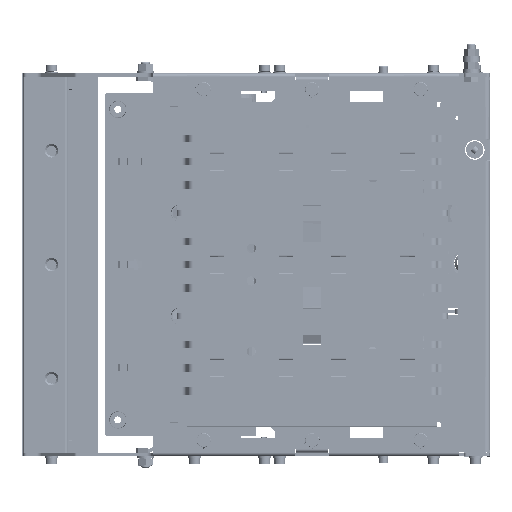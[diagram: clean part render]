
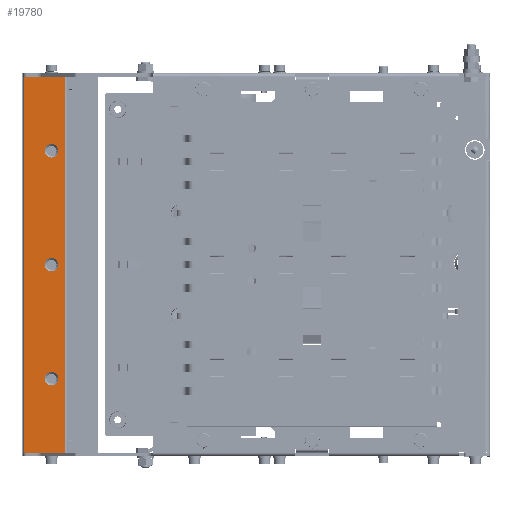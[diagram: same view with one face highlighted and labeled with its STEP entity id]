
A CAD part, left-side view. The second image highlights one B-rep face of the part: STEP entity #19780.
In plain terms, the highlighted planar face has unit normal (-1, 0, 0).
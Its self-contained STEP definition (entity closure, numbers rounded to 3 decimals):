
#1541 = ORIENTED_EDGE ( 'NONE', *, *, #16719, .T. ) ;
#2898 = DIRECTION ( 'NONE',  ( 1., 0., 0. ) ) ;
#3358 = AXIS2_PLACEMENT_3D ( 'NONE', #140465, #6004, #73793 ) ;
#4166 = AXIS2_PLACEMENT_3D ( 'NONE', #163078, #2898, #83635 ) ;
#6004 = DIRECTION ( 'NONE',  ( 1., 0., 0. ) ) ;
#6260 = AXIS2_PLACEMENT_3D ( 'NONE', #125598, #124439, #71186 ) ;
#6867 = FACE_BOUND ( 'NONE', #60080, .T. ) ;
#6872 = LINE ( 'NONE', #141197, #50761 ) ;
#7115 = DIRECTION ( 'NONE',  ( 0., 0., -1. ) ) ;
#9497 = DIRECTION ( 'NONE',  ( 1., 0., 0. ) ) ;
#9722 = ORIENTED_EDGE ( 'NONE', *, *, #91679, .F. ) ;
#14204 = LINE ( 'NONE', #154221, #20425 ) ;
#15259 = FACE_BOUND ( 'NONE', #83555, .T. ) ;
#16719 = EDGE_CURVE ( 'NONE', #86114, #59194, #141039, .T. ) ;
#16977 = VERTEX_POINT ( 'NONE', #172877 ) ;
#18543 = EDGE_CURVE ( 'NONE', #105776, #165842, #32640, .T. ) ;
#19780 = ADVANCED_FACE ( 'NONE', ( #126223, #42400, #15259, #6867 ), #70008, .F. ) ;
#20425 = VECTOR ( 'NONE', #165281, 1000. ) ;
#22490 = CARTESIAN_POINT ( 'NONE',  ( 294.756, 616.613, 174.188 ) ) ;
#23768 = AXIS2_PLACEMENT_3D ( 'NONE', #62147, #9497, #62717 ) ;
#24947 = ORIENTED_EDGE ( 'NONE', *, *, #102438, .T. ) ;
#28332 = EDGE_CURVE ( 'NONE', #62651, #105776, #14204, .T. ) ;
#28477 = CARTESIAN_POINT ( 'NONE',  ( 294.756, 591.613, 112.138 ) ) ;
#32640 = LINE ( 'NONE', #106769, #80793 ) ;
#34902 = CARTESIAN_POINT ( 'NONE',  ( 294.756, 591.613, -5.362 ) ) ;
#37275 = ORIENTED_EDGE ( 'NONE', *, *, #88600, .T. ) ;
#38729 = ORIENTED_EDGE ( 'NONE', *, *, #18543, .T. ) ;
#39022 = EDGE_CURVE ( 'NONE', #155412, #142852, #121262, .T. ) ;
#39981 = DIRECTION ( 'NONE',  ( 0., 0., 1. ) ) ;
#40313 = VERTEX_POINT ( 'NONE', #22490 ) ;
#42400 = FACE_BOUND ( 'NONE', #52055, .T. ) ;
#45305 = ORIENTED_EDGE ( 'NONE', *, *, #135195, .T. ) ;
#49553 = CARTESIAN_POINT ( 'NONE',  ( 294.756, 591.613, -110.362 ) ) ;
#50761 = VECTOR ( 'NONE', #155829, 1000. ) ;
#52055 = EDGE_LOOP ( 'NONE', ( #1541, #131562 ) ) ;
#55885 = CIRCLE ( 'NONE', #6260, 6.25 ) ;
#59194 = VERTEX_POINT ( 'NONE', #131775 ) ;
#59736 = CARTESIAN_POINT ( 'NONE',  ( 294.756, 591.613, 0.888 ) ) ;
#60080 = EDGE_LOOP ( 'NONE', ( #45305, #68183 ) ) ;
#62147 = CARTESIAN_POINT ( 'NONE',  ( 294.756, 591.613, 105.888 ) ) ;
#62651 = VERTEX_POINT ( 'NONE', #116395 ) ;
#62717 = DIRECTION ( 'NONE',  ( 0., 0., -1. ) ) ;
#66873 = EDGE_CURVE ( 'NONE', #59194, #86114, #96189, .T. ) ;
#68183 = ORIENTED_EDGE ( 'NONE', *, *, #39022, .T. ) ;
#69754 = DIRECTION ( 'NONE',  ( 1., 0., 0. ) ) ;
#70008 = PLANE ( 'NONE',  #122594 ) ;
#70582 = CARTESIAN_POINT ( 'NONE',  ( 294.756, 617.613, 174.188 ) ) ;
#71186 = DIRECTION ( 'NONE',  ( 0., 0., -1. ) ) ;
#73793 = DIRECTION ( 'NONE',  ( 0., 0., -1. ) ) ;
#76517 = CIRCLE ( 'NONE', #160133, 6.25 ) ;
#80793 = VECTOR ( 'NONE', #39981, 1000. ) ;
#82516 = CARTESIAN_POINT ( 'NONE',  ( 294.756, 616.613, 174.188 ) ) ;
#83104 = DIRECTION ( 'NONE',  ( 0., 0., -1. ) ) ;
#83555 = EDGE_LOOP ( 'NONE', ( #37275, #121136 ) ) ;
#83635 = DIRECTION ( 'NONE',  ( 0., 0., -1. ) ) ;
#86114 = VERTEX_POINT ( 'NONE', #28477 ) ;
#86377 = CARTESIAN_POINT ( 'NONE',  ( 294.756, 591.613, -97.862 ) ) ;
#87263 = DIRECTION ( 'NONE',  ( 1., 0., 0. ) ) ;
#88600 = EDGE_CURVE ( 'NONE', #16977, #149675, #76517, .T. ) ;
#91679 = EDGE_CURVE ( 'NONE', #40313, #165842, #6872, .T. ) ;
#96189 = CIRCLE ( 'NONE', #23768, 6.25 ) ;
#102438 = EDGE_CURVE ( 'NONE', #40313, #62651, #118443, .T. ) ;
#103783 = CARTESIAN_POINT ( 'NONE',  ( 294.756, 579.413, 174.188 ) ) ;
#103953 = CIRCLE ( 'NONE', #133204, 6.25 ) ;
#105776 = VERTEX_POINT ( 'NONE', #150881 ) ;
#106769 = CARTESIAN_POINT ( 'NONE',  ( 294.756, 579.413, 174.188 ) ) ;
#108982 = CARTESIAN_POINT ( 'NONE',  ( 294.756, 591.613, 0.888 ) ) ;
#116395 = CARTESIAN_POINT ( 'NONE',  ( 294.756, 616.613, -172.412 ) ) ;
#118443 = LINE ( 'NONE', #82516, #168525 ) ;
#121122 = EDGE_LOOP ( 'NONE', ( #9722, #24947, #130299, #38729 ) ) ;
#121136 = ORIENTED_EDGE ( 'NONE', *, *, #159415, .T. ) ;
#121262 = CIRCLE ( 'NONE', #3358, 6.25 ) ;
#121498 = DIRECTION ( 'NONE',  ( 1., 0., 0. ) ) ;
#122594 = AXIS2_PLACEMENT_3D ( 'NONE', #70582, #121498, #123856 ) ;
#123856 = DIRECTION ( 'NONE',  ( 0., 1., 0. ) ) ;
#124439 = DIRECTION ( 'NONE',  ( 1., 0., 0. ) ) ;
#125598 = CARTESIAN_POINT ( 'NONE',  ( 294.756, 591.613, -104.112 ) ) ;
#126223 = FACE_OUTER_BOUND ( 'NONE', #121122, .T. ) ;
#130299 = ORIENTED_EDGE ( 'NONE', *, *, #28332, .T. ) ;
#131562 = ORIENTED_EDGE ( 'NONE', *, *, #66873, .T. ) ;
#131775 = CARTESIAN_POINT ( 'NONE',  ( 294.756, 591.613, 99.638 ) ) ;
#133204 = AXIS2_PLACEMENT_3D ( 'NONE', #59736, #87263, #7115 ) ;
#135195 = EDGE_CURVE ( 'NONE', #142852, #155412, #55885, .T. ) ;
#140465 = CARTESIAN_POINT ( 'NONE',  ( 294.756, 591.613, -104.112 ) ) ;
#141039 = CIRCLE ( 'NONE', #4166, 6.25 ) ;
#141197 = CARTESIAN_POINT ( 'NONE',  ( 294.756, 617.613, 174.188 ) ) ;
#142852 = VERTEX_POINT ( 'NONE', #86377 ) ;
#149675 = VERTEX_POINT ( 'NONE', #34902 ) ;
#150881 = CARTESIAN_POINT ( 'NONE',  ( 294.756, 579.413, -172.412 ) ) ;
#154221 = CARTESIAN_POINT ( 'NONE',  ( 294.756, 617.613, -172.412 ) ) ;
#155412 = VERTEX_POINT ( 'NONE', #49553 ) ;
#155829 = DIRECTION ( 'NONE',  ( 0., -1., 0. ) ) ;
#159415 = EDGE_CURVE ( 'NONE', #149675, #16977, #103953, .T. ) ;
#160133 = AXIS2_PLACEMENT_3D ( 'NONE', #108982, #69754, #162673 ) ;
#162673 = DIRECTION ( 'NONE',  ( 0., 0., -1. ) ) ;
#163078 = CARTESIAN_POINT ( 'NONE',  ( 294.756, 591.613, 105.888 ) ) ;
#165281 = DIRECTION ( 'NONE',  ( 0., -1., 0. ) ) ;
#165842 = VERTEX_POINT ( 'NONE', #103783 ) ;
#168525 = VECTOR ( 'NONE', #83104, 1000. ) ;
#172877 = CARTESIAN_POINT ( 'NONE',  ( 294.756, 591.613, 7.138 ) ) ;
